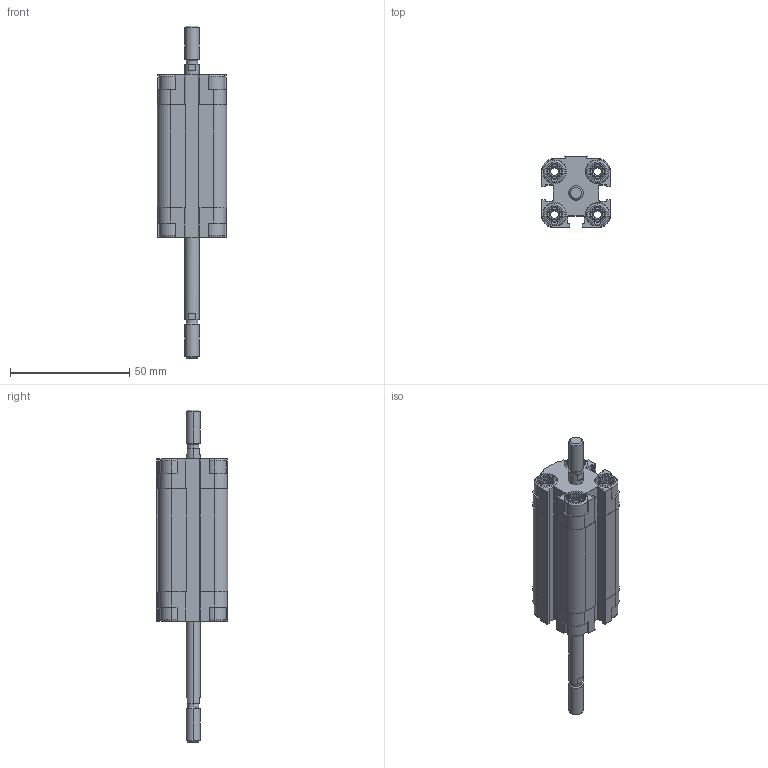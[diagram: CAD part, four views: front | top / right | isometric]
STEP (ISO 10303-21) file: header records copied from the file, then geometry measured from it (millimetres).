
FILE_DESCRIPTION (( 'STEP AP203' ), '1' );
FILE_NAME ('CDVU12-30M-P.STEP', '2020-07-21T14:56:34', ( '' ), ( '' ), 'SwSTEP 2.0', 'SolidWorks 2019', '' );
FILE_SCHEMA (( 'CONFIG_CONTROL_DESIGN' ));
Length unit declared in the file: millimetre
Products named in the file (1): CDVU12-30M-P
Bounding box: 29 x 30 x 139 mm (x, y, z)
Volume: 42268.9 mm3; surface area: 22242.5 mm2
Topology: 2 solids, 2 shells, 566 faces, 1504 edges, 978 vertices
Faces by surface type: plane 338, cylinder 164, cone 48, torus 16
Entity records: 17771 total; most frequent: CARTESIAN_POINT 3621, ORIENTED_EDGE 3000, DIRECTION 2850, EDGE_CURVE 1500, VERTEX_POINT 978, AXIS2_PLACEMENT_3D 975, LINE 900, VECTOR 900
